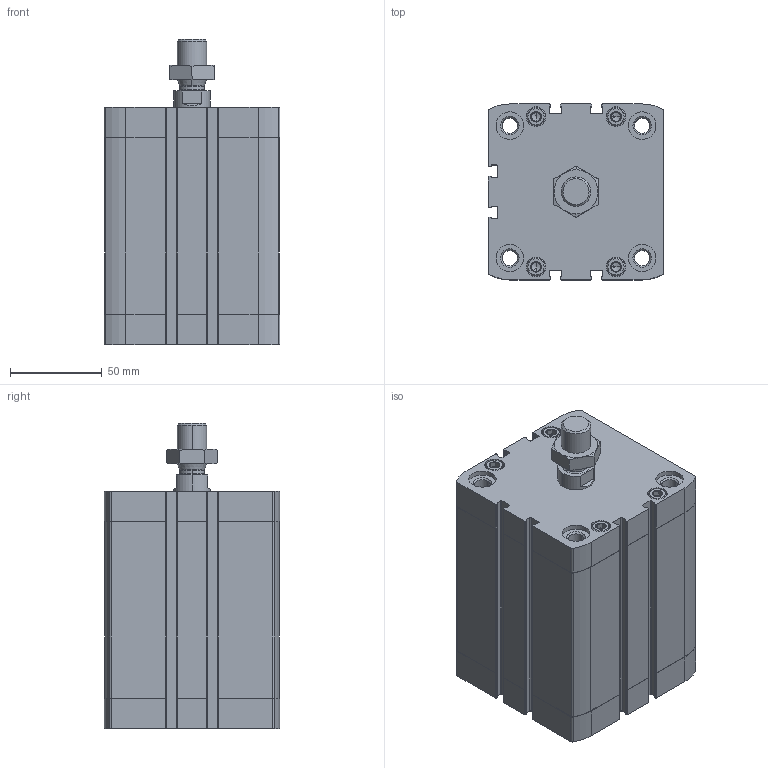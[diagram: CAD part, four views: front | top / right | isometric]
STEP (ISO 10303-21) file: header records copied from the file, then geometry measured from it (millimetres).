
FILE_DESCRIPTION (( 'STEP AP203' ), '1' );
FILE_NAME ('CCN80-75M.STEP', '2017-04-05T20:23:21', ( '' ), ( '' ), 'SwSTEP 2.0', 'SolidWorks 2016', '' );
FILE_SCHEMA (( 'CONFIG_CONTROL_DESIGN' ));
Length unit declared in the file: millimetre
Products named in the file (4): CCN-75---(Z); CCN-75_(KS); _DIN-439-B - M16x1.5(F); CCN80-75M
Assembly tree (3 placements, depth 2):
  CCN80-75M
    CCN-75---(Z)
    CCN-75_(KS)
    _DIN-439-B - M16x1.5(F)
Bounding box: 95.5 x 95.5 x 165.9 mm (x, y, z)
Volume: 757500.1 mm3; surface area: 151943.8 mm2
Topology: 3 solids, 3 shells, 507 faces, 1278 edges, 808 vertices
Faces by surface type: plane 235, cylinder 188, cone 80, bspline 4
Entity records: 16086 total; most frequent: CARTESIAN_POINT 3295, DIRECTION 2704, ORIENTED_EDGE 2524, EDGE_CURVE 1262, AXIS2_PLACEMENT_3D 1013, VERTEX_POINT 808, VECTOR 678, LINE 678
